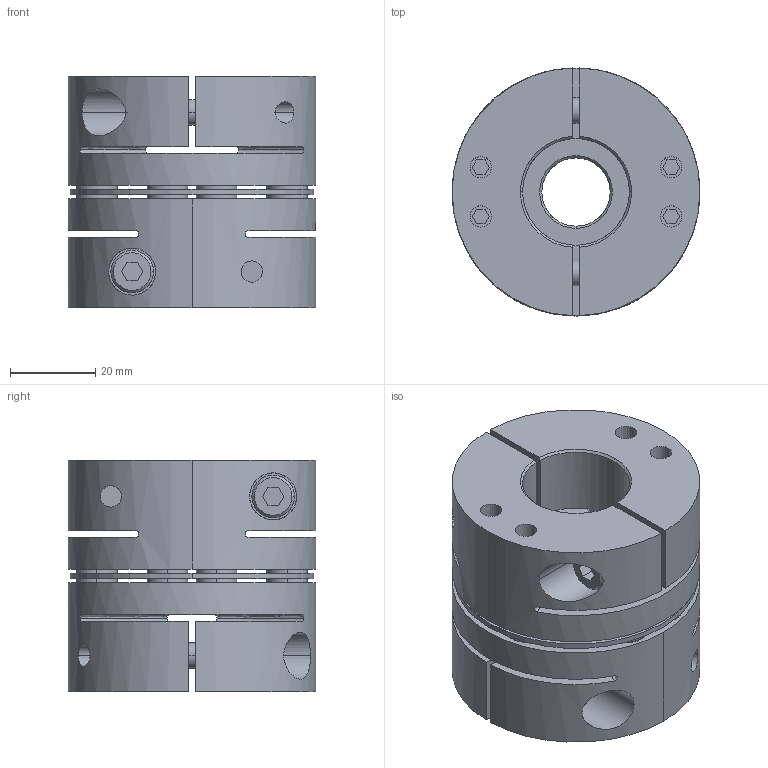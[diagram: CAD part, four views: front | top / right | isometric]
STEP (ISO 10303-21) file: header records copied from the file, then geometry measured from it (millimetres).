
FILE_DESCRIPTION((''),'2;1');
FILE_NAME('TAS-58C-16×25.stp','2022-11-14T22:14:30',(''),(''),'AutoCAD STEP 2000i','AutoCAD 2000i',', , ');
FILE_SCHEMA(('CONFIG_CONTROL_DESIGN'));
Length unit declared in the file: millimetre
Products named in the file (6): TAS-58C-12×22; 忣兜1; TA58C-22; CAP-M6×20; TA58C-12-2; TA58C-12
Assembly tree (7 placements, depth 3):
  TAS-58C-12×22
    忣兜1
    TA58C-22
      CAP-M6×20
    TA58C-12-2
      CAP-M6×20
    TA58C-12
      CAP-M6×20
Bounding box: 58 x 58 x 54.25 mm (x, y, z)
Volume: 104381.5 mm3; surface area: 41593.5 mm2
Topology: 1 solids, 1 shells, 360 faces, 898 edges, 628 vertices
Faces by surface type: plane 160, cylinder 148, cone 36, bspline 16
Entity records: 12805 total; most frequent: CARTESIAN_POINT 3832, DIRECTION 1922, ORIENTED_EDGE 1720, EDGE_CURVE 860, AXIS2_PLACEMENT_3D 732, VERTEX_POINT 564, EDGE_LOOP 464, VECTOR 458
